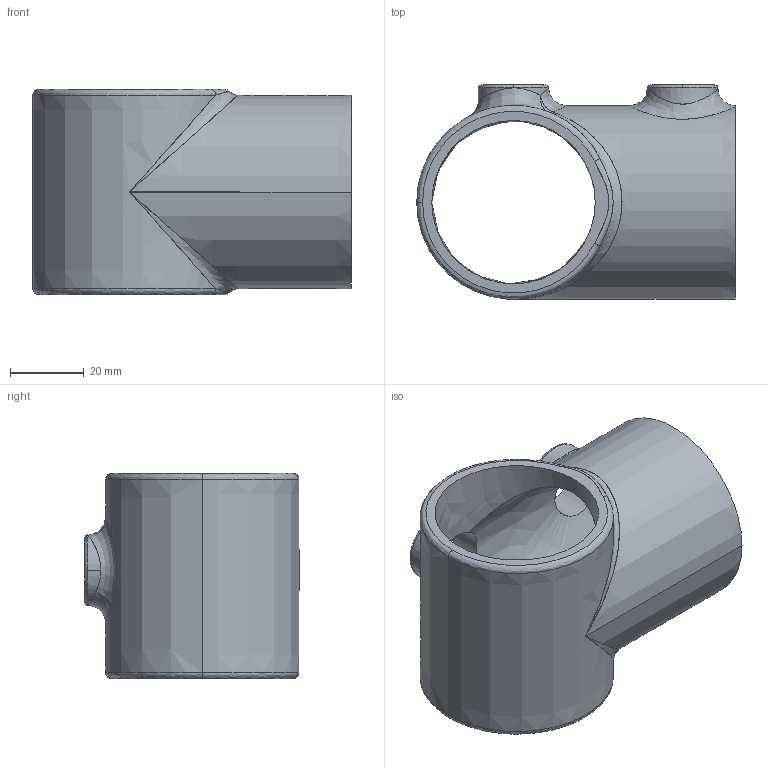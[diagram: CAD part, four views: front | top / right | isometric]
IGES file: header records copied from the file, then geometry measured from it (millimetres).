
Global section: file name: C:\Documents and Settings\Administrator\Desktop\Transfer Temp\kk10-7.igs; native system: AutoDesk Inventor R2.0 ; preprocessor: AutoDesk Inventor Iges Exporter R2.0; author: No Author specified; organization: No Organization specified; date: 20020101.002957; units: inch
Bounding box: 86.11 x 57.91 x 55.5 mm (x, y, z)
Surface area: 27899.9 mm2 (no closed solid volume)
Topology: 0 solids, 0 shells, 41 faces, 259 edges, 255 vertices
Faces by surface type: bspline 24, revolution 17
